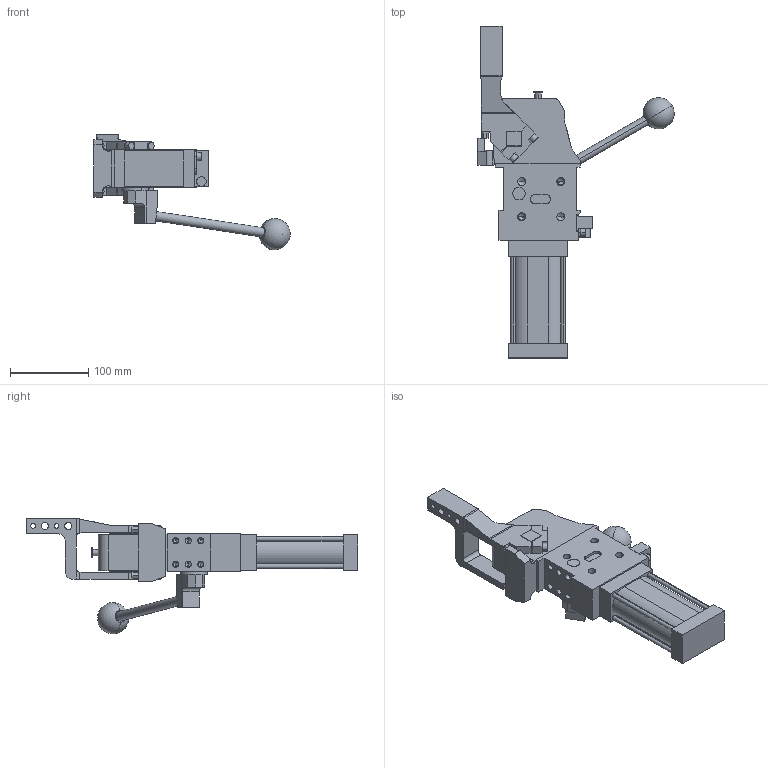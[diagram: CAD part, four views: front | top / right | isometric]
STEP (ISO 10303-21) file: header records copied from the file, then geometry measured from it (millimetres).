
FILE_DESCRIPTION (( 'STEP AP214' ), '1' );
FILE_NAME ('cplm50lbth1si1g_107.STEP', '2023-01-26T13:25:15', ( '' ), ( '' ), 'SwSTEP 2.0', 'SolidWorks 2022', '' );
FILE_SCHEMA (( 'AUTOMOTIVE_DESIGN' ));
Length unit declared in the file: millimetre
Products named in the file (5): meccanica_cplm_50_tassello_esterno; leva_h1s_cpl50t; blocchetto_VEP_0; comando_manuale_cplm_50; cplm50lbth1si1g_107
Assembly tree (4 placements, depth 2):
  cplm50lbth1si1g_107
    meccanica_cplm_50_tassello_esterno
    blocchetto_VEP_0
    leva_h1s_cpl50t
    comando_manuale_cplm_50
Bounding box: 250.96 x 424.5 x 148 mm (x, y, z)
Volume: 1501766.3 mm3; surface area: 188266.6 mm2
Topology: 4 solids, 4 shells, 466 faces, 1209 edges, 757 vertices
Faces by surface type: plane 245, cylinder 169, cone 50, sphere 2
Entity records: 15492 total; most frequent: CARTESIAN_POINT 2485, DIRECTION 2446, ORIENTED_EDGE 2316, EDGE_CURVE 1158, AXIS2_PLACEMENT_3D 829, VECTOR 788, LINE 788, VERTEX_POINT 754
